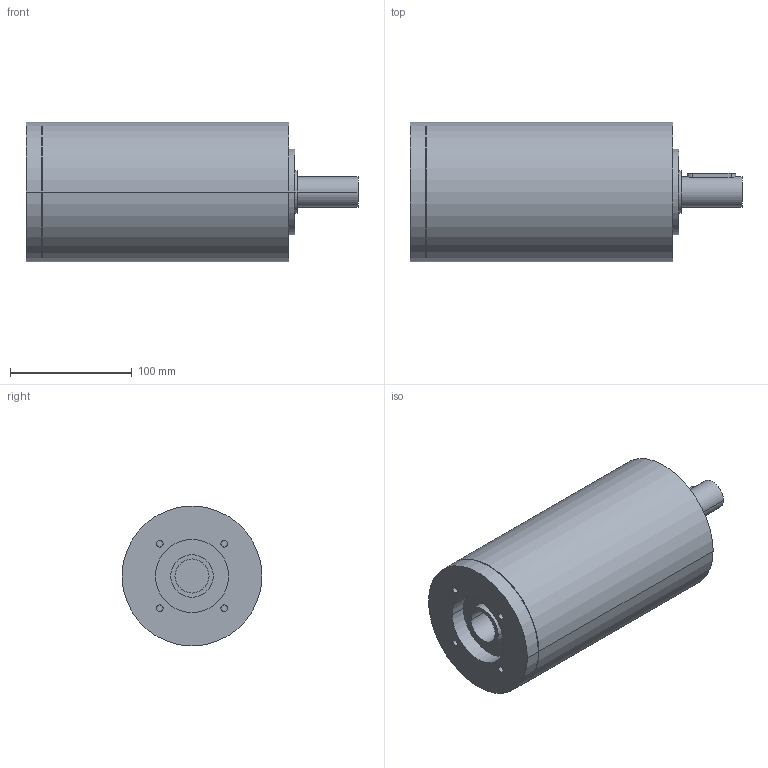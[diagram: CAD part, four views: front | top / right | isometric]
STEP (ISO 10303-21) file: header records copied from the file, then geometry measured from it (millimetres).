
FILE_DESCRIPTION(('CoCreate Modeling STEP Export'),'2;1');
FILE_NAME('GPR125_ig-48-64-80-100-140-196-245-343_25_B14_28_P02.stp','2014-08-26T14:22:43',(''),(''),'CoCreate Modeling STEP processor for AP214 (Solid Model)','CoCreate Modeling 16.00C 25-Feb-2009 (C) Parametric Technology GmbH','');
FILE_SCHEMA(('AUTOMOTIVE_DESIGN { 1 0 10303 214 1 1 1 1 }'));
Length unit declared in the file: millimetre
Products named in the file (2): GPR125_ig-48-64-80-100-140-196-245-343_25_B14_28_P02
Assembly tree (1 placements, depth 2):
  GPR125_ig-48-64-80-100-140-196-245-343_25_B14_28_P02
    GPR125_ig-48-64-80-100-140-196-245-343_25_B14_28_P02
Bounding box: 273 x 115 x 115 mm (x, y, z)
Volume: 2218605.2 mm3; surface area: 116683.3 mm2
Topology: 1 solids, 1 shells, 72 faces, 173 edges, 121 vertices
Faces by surface type: cylinder 44, plane 24, cone 4
Entity records: 1805 total; most frequent: ORIENTED_EDGE 342, CARTESIAN_POINT 336, DIRECTION 240, EDGE_CURVE 171, VERTEX_POINT 121, AXIS2_PLACEMENT_3D 93, EDGE_LOOP 92, FACE_OUTER_BOUND 72
